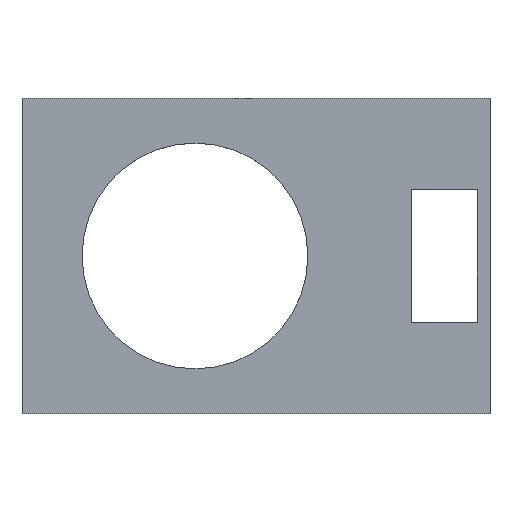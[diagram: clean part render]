
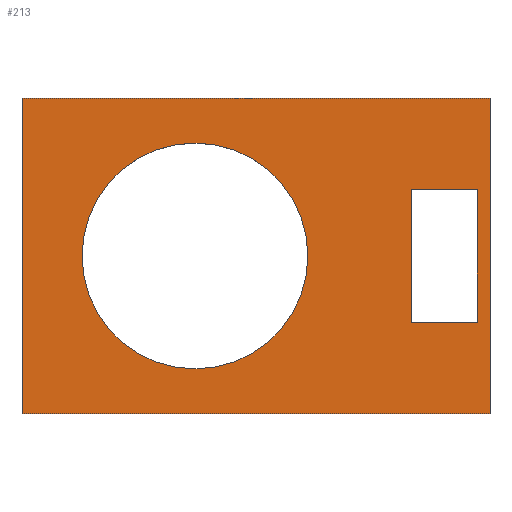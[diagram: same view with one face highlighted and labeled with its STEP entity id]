
A CAD part, top view. The second image highlights one B-rep face of the part: STEP entity #213.
In plain terms, the highlighted planar face has unit normal (0, 0, 1).
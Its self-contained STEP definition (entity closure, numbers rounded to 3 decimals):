
#24 = VERTEX_POINT('',#25);
#25 = CARTESIAN_POINT('',(33.5,85.913,151.));
#32 = PLANE('',#33);
#33 = AXIS2_PLACEMENT_3D('',#34,#35,#36);
#34 = CARTESIAN_POINT('',(33.5,85.913,143.));
#35 = DIRECTION('',(1.,0.,-0.));
#36 = DIRECTION('',(0.,0.,1.));
#44 = PLANE('',#45);
#45 = AXIS2_PLACEMENT_3D('',#46,#47,#48);
#46 = CARTESIAN_POINT('',(33.5,85.913,143.));
#47 = DIRECTION('',(-0.,1.,0.));
#48 = DIRECTION('',(0.,0.,1.));
#85 = VERTEX_POINT('',#86);
#86 = CARTESIAN_POINT('',(33.5,147.913,151.));
#100 = PLANE('',#101);
#101 = AXIS2_PLACEMENT_3D('',#102,#103,#104);
#102 = CARTESIAN_POINT('',(33.5,147.913,143.));
#103 = DIRECTION('',(-0.,1.,0.));
#104 = DIRECTION('',(0.,0.,1.));
#112 = EDGE_CURVE('',#24,#85,#113,.T.);
#113 = SURFACE_CURVE('',#114,(#118,#125),.PCURVE_S1.);
#114 = LINE('',#115,#116);
#115 = CARTESIAN_POINT('',(33.5,85.913,151.));
#116 = VECTOR('',#117,1.);
#117 = DIRECTION('',(-0.,1.,0.));
#118 = PCURVE('',#32,#119);
#119 = DEFINITIONAL_REPRESENTATION('',(#120),#124);
#120 = LINE('',#121,#122);
#121 = CARTESIAN_POINT('',(8.,0.));
#122 = VECTOR('',#123,1.);
#123 = DIRECTION('',(0.,-1.));
#124 = ( GEOMETRIC_REPRESENTATION_CONTEXT(2) 
PARAMETRIC_REPRESENTATION_CONTEXT() REPRESENTATION_CONTEXT('2D SPACE',''
  ) );
#125 = PCURVE('',#126,#131);
#126 = PLANE('',#127);
#127 = AXIS2_PLACEMENT_3D('',#128,#129,#130);
#128 = CARTESIAN_POINT('',(33.5,85.913,151.));
#129 = DIRECTION('',(0.,0.,1.));
#130 = DIRECTION('',(1.,0.,-0.));
#131 = DEFINITIONAL_REPRESENTATION('',(#132),#136);
#132 = LINE('',#133,#134);
#133 = CARTESIAN_POINT('',(0.,0.));
#134 = VECTOR('',#135,1.);
#135 = DIRECTION('',(0.,1.));
#136 = ( GEOMETRIC_REPRESENTATION_CONTEXT(2) 
PARAMETRIC_REPRESENTATION_CONTEXT() REPRESENTATION_CONTEXT('2D SPACE',''
  ) );
#165 = EDGE_CURVE('',#24,#166,#168,.T.);
#166 = VERTEX_POINT('',#167);
#167 = CARTESIAN_POINT('',(125.5,85.913,151.));
#168 = SURFACE_CURVE('',#169,(#173,#180),.PCURVE_S1.);
#169 = LINE('',#170,#171);
#170 = CARTESIAN_POINT('',(33.5,85.913,151.));
#171 = VECTOR('',#172,1.);
#172 = DIRECTION('',(1.,0.,-0.));
#173 = PCURVE('',#44,#174);
#174 = DEFINITIONAL_REPRESENTATION('',(#175),#179);
#175 = LINE('',#176,#177);
#176 = CARTESIAN_POINT('',(8.,0.));
#177 = VECTOR('',#178,1.);
#178 = DIRECTION('',(0.,1.));
#179 = ( GEOMETRIC_REPRESENTATION_CONTEXT(2) 
PARAMETRIC_REPRESENTATION_CONTEXT() REPRESENTATION_CONTEXT('2D SPACE',''
  ) );
#180 = PCURVE('',#126,#181);
#181 = DEFINITIONAL_REPRESENTATION('',(#182),#186);
#182 = LINE('',#183,#184);
#183 = CARTESIAN_POINT('',(0.,0.));
#184 = VECTOR('',#185,1.);
#185 = DIRECTION('',(1.,0.));
#186 = ( GEOMETRIC_REPRESENTATION_CONTEXT(2) 
PARAMETRIC_REPRESENTATION_CONTEXT() REPRESENTATION_CONTEXT('2D SPACE',''
  ) );
#202 = PLANE('',#203);
#203 = AXIS2_PLACEMENT_3D('',#204,#205,#206);
#204 = CARTESIAN_POINT('',(125.5,85.913,143.));
#205 = DIRECTION('',(1.,0.,-0.));
#206 = DIRECTION('',(0.,0.,1.));
#213 = ADVANCED_FACE('',(#214,#262,#293),#126,.T.);
#214 = FACE_BOUND('',#215,.T.);
#215 = EDGE_LOOP('',(#216,#217,#218,#241));
#216 = ORIENTED_EDGE('',*,*,#112,.F.);
#217 = ORIENTED_EDGE('',*,*,#165,.T.);
#218 = ORIENTED_EDGE('',*,*,#219,.T.);
#219 = EDGE_CURVE('',#166,#220,#222,.T.);
#220 = VERTEX_POINT('',#221);
#221 = CARTESIAN_POINT('',(125.5,147.913,151.));
#222 = SURFACE_CURVE('',#223,(#227,#234),.PCURVE_S1.);
#223 = LINE('',#224,#225);
#224 = CARTESIAN_POINT('',(125.5,85.913,151.));
#225 = VECTOR('',#226,1.);
#226 = DIRECTION('',(-0.,1.,0.));
#227 = PCURVE('',#126,#228);
#228 = DEFINITIONAL_REPRESENTATION('',(#229),#233);
#229 = LINE('',#230,#231);
#230 = CARTESIAN_POINT('',(92.,0.));
#231 = VECTOR('',#232,1.);
#232 = DIRECTION('',(0.,1.));
#233 = ( GEOMETRIC_REPRESENTATION_CONTEXT(2) 
PARAMETRIC_REPRESENTATION_CONTEXT() REPRESENTATION_CONTEXT('2D SPACE',''
  ) );
#234 = PCURVE('',#202,#235);
#235 = DEFINITIONAL_REPRESENTATION('',(#236),#240);
#236 = LINE('',#237,#238);
#237 = CARTESIAN_POINT('',(8.,0.));
#238 = VECTOR('',#239,1.);
#239 = DIRECTION('',(0.,-1.));
#240 = ( GEOMETRIC_REPRESENTATION_CONTEXT(2) 
PARAMETRIC_REPRESENTATION_CONTEXT() REPRESENTATION_CONTEXT('2D SPACE',''
  ) );
#241 = ORIENTED_EDGE('',*,*,#242,.F.);
#242 = EDGE_CURVE('',#85,#220,#243,.T.);
#243 = SURFACE_CURVE('',#244,(#248,#255),.PCURVE_S1.);
#244 = LINE('',#245,#246);
#245 = CARTESIAN_POINT('',(33.5,147.913,151.));
#246 = VECTOR('',#247,1.);
#247 = DIRECTION('',(1.,0.,-0.));
#248 = PCURVE('',#126,#249);
#249 = DEFINITIONAL_REPRESENTATION('',(#250),#254);
#250 = LINE('',#251,#252);
#251 = CARTESIAN_POINT('',(0.,62.));
#252 = VECTOR('',#253,1.);
#253 = DIRECTION('',(1.,0.));
#254 = ( GEOMETRIC_REPRESENTATION_CONTEXT(2) 
PARAMETRIC_REPRESENTATION_CONTEXT() REPRESENTATION_CONTEXT('2D SPACE',''
  ) );
#255 = PCURVE('',#100,#256);
#256 = DEFINITIONAL_REPRESENTATION('',(#257),#261);
#257 = LINE('',#258,#259);
#258 = CARTESIAN_POINT('',(8.,0.));
#259 = VECTOR('',#260,1.);
#260 = DIRECTION('',(0.,1.));
#261 = ( GEOMETRIC_REPRESENTATION_CONTEXT(2) 
PARAMETRIC_REPRESENTATION_CONTEXT() REPRESENTATION_CONTEXT('2D SPACE',''
  ) );
#262 = FACE_BOUND('',#263,.T.);
#263 = EDGE_LOOP('',(#264));
#264 = ORIENTED_EDGE('',*,*,#265,.F.);
#265 = EDGE_CURVE('',#266,#266,#268,.T.);
#266 = VERTEX_POINT('',#267);
#267 = CARTESIAN_POINT('',(89.7,116.913,151.));
#268 = SURFACE_CURVE('',#269,(#274,#281),.PCURVE_S1.);
#269 = CIRCLE('',#270,22.2);
#270 = AXIS2_PLACEMENT_3D('',#271,#272,#273);
#271 = CARTESIAN_POINT('',(67.5,116.913,151.));
#272 = DIRECTION('',(0.,0.,1.));
#273 = DIRECTION('',(1.,0.,-0.));
#274 = PCURVE('',#126,#275);
#275 = DEFINITIONAL_REPRESENTATION('',(#276),#280);
#276 = CIRCLE('',#277,22.2);
#277 = AXIS2_PLACEMENT_2D('',#278,#279);
#278 = CARTESIAN_POINT('',(34.,31.));
#279 = DIRECTION('',(1.,0.));
#280 = ( GEOMETRIC_REPRESENTATION_CONTEXT(2) 
PARAMETRIC_REPRESENTATION_CONTEXT() REPRESENTATION_CONTEXT('2D SPACE',''
  ) );
#281 = PCURVE('',#282,#287);
#282 = CYLINDRICAL_SURFACE('',#283,22.2);
#283 = AXIS2_PLACEMENT_3D('',#284,#285,#286);
#284 = CARTESIAN_POINT('',(67.5,116.913,142.));
#285 = DIRECTION('',(0.,0.,1.));
#286 = DIRECTION('',(1.,0.,-0.));
#287 = DEFINITIONAL_REPRESENTATION('',(#288),#292);
#288 = LINE('',#289,#290);
#289 = CARTESIAN_POINT('',(0.,9.));
#290 = VECTOR('',#291,1.);
#291 = DIRECTION('',(1.,0.));
#292 = ( GEOMETRIC_REPRESENTATION_CONTEXT(2) 
PARAMETRIC_REPRESENTATION_CONTEXT() REPRESENTATION_CONTEXT('2D SPACE',''
  ) );
#293 = FACE_BOUND('',#294,.T.);
#294 = EDGE_LOOP('',(#295,#325,#353,#381));
#295 = ORIENTED_EDGE('',*,*,#296,.T.);
#296 = EDGE_CURVE('',#297,#299,#301,.T.);
#297 = VERTEX_POINT('',#298);
#298 = CARTESIAN_POINT('',(123.,103.913,151.));
#299 = VERTEX_POINT('',#300);
#300 = CARTESIAN_POINT('',(110.,103.913,151.));
#301 = SURFACE_CURVE('',#302,(#306,#313),.PCURVE_S1.);
#302 = LINE('',#303,#304);
#303 = CARTESIAN_POINT('',(71.75,103.913,151.));
#304 = VECTOR('',#305,1.);
#305 = DIRECTION('',(-1.,-0.,0.));
#306 = PCURVE('',#126,#307);
#307 = DEFINITIONAL_REPRESENTATION('',(#308),#312);
#308 = LINE('',#309,#310);
#309 = CARTESIAN_POINT('',(38.25,18.));
#310 = VECTOR('',#311,1.);
#311 = DIRECTION('',(-1.,0.));
#312 = ( GEOMETRIC_REPRESENTATION_CONTEXT(2) 
PARAMETRIC_REPRESENTATION_CONTEXT() REPRESENTATION_CONTEXT('2D SPACE',''
  ) );
#313 = PCURVE('',#314,#319);
#314 = PLANE('',#315);
#315 = AXIS2_PLACEMENT_3D('',#316,#317,#318);
#316 = CARTESIAN_POINT('',(110.,103.913,142.));
#317 = DIRECTION('',(-0.,1.,0.));
#318 = DIRECTION('',(0.,0.,1.));
#319 = DEFINITIONAL_REPRESENTATION('',(#320),#324);
#320 = LINE('',#321,#322);
#321 = CARTESIAN_POINT('',(9.,-38.25));
#322 = VECTOR('',#323,1.);
#323 = DIRECTION('',(0.,-1.));
#324 = ( GEOMETRIC_REPRESENTATION_CONTEXT(2) 
PARAMETRIC_REPRESENTATION_CONTEXT() REPRESENTATION_CONTEXT('2D SPACE',''
  ) );
#325 = ORIENTED_EDGE('',*,*,#326,.T.);
#326 = EDGE_CURVE('',#299,#327,#329,.T.);
#327 = VERTEX_POINT('',#328);
#328 = CARTESIAN_POINT('',(110.,129.913,151.));
#329 = SURFACE_CURVE('',#330,(#334,#341),.PCURVE_S1.);
#330 = LINE('',#331,#332);
#331 = CARTESIAN_POINT('',(110.,94.913,151.));
#332 = VECTOR('',#333,1.);
#333 = DIRECTION('',(-0.,1.,0.));
#334 = PCURVE('',#126,#335);
#335 = DEFINITIONAL_REPRESENTATION('',(#336),#340);
#336 = LINE('',#337,#338);
#337 = CARTESIAN_POINT('',(76.5,9.));
#338 = VECTOR('',#339,1.);
#339 = DIRECTION('',(0.,1.));
#340 = ( GEOMETRIC_REPRESENTATION_CONTEXT(2) 
PARAMETRIC_REPRESENTATION_CONTEXT() REPRESENTATION_CONTEXT('2D SPACE',''
  ) );
#341 = PCURVE('',#342,#347);
#342 = PLANE('',#343);
#343 = AXIS2_PLACEMENT_3D('',#344,#345,#346);
#344 = CARTESIAN_POINT('',(110.,103.913,142.));
#345 = DIRECTION('',(1.,0.,-0.));
#346 = DIRECTION('',(0.,0.,1.));
#347 = DEFINITIONAL_REPRESENTATION('',(#348),#352);
#348 = LINE('',#349,#350);
#349 = CARTESIAN_POINT('',(9.,9.));
#350 = VECTOR('',#351,1.);
#351 = DIRECTION('',(0.,-1.));
#352 = ( GEOMETRIC_REPRESENTATION_CONTEXT(2) 
PARAMETRIC_REPRESENTATION_CONTEXT() REPRESENTATION_CONTEXT('2D SPACE',''
  ) );
#353 = ORIENTED_EDGE('',*,*,#354,.F.);
#354 = EDGE_CURVE('',#355,#327,#357,.T.);
#355 = VERTEX_POINT('',#356);
#356 = CARTESIAN_POINT('',(123.,129.913,151.));
#357 = SURFACE_CURVE('',#358,(#362,#369),.PCURVE_S1.);
#358 = LINE('',#359,#360);
#359 = CARTESIAN_POINT('',(71.75,129.913,151.));
#360 = VECTOR('',#361,1.);
#361 = DIRECTION('',(-1.,-0.,0.));
#362 = PCURVE('',#126,#363);
#363 = DEFINITIONAL_REPRESENTATION('',(#364),#368);
#364 = LINE('',#365,#366);
#365 = CARTESIAN_POINT('',(38.25,44.));
#366 = VECTOR('',#367,1.);
#367 = DIRECTION('',(-1.,0.));
#368 = ( GEOMETRIC_REPRESENTATION_CONTEXT(2) 
PARAMETRIC_REPRESENTATION_CONTEXT() REPRESENTATION_CONTEXT('2D SPACE',''
  ) );
#369 = PCURVE('',#370,#375);
#370 = PLANE('',#371);
#371 = AXIS2_PLACEMENT_3D('',#372,#373,#374);
#372 = CARTESIAN_POINT('',(110.,129.913,142.));
#373 = DIRECTION('',(-0.,1.,0.));
#374 = DIRECTION('',(0.,0.,1.));
#375 = DEFINITIONAL_REPRESENTATION('',(#376),#380);
#376 = LINE('',#377,#378);
#377 = CARTESIAN_POINT('',(9.,-38.25));
#378 = VECTOR('',#379,1.);
#379 = DIRECTION('',(0.,-1.));
#380 = ( GEOMETRIC_REPRESENTATION_CONTEXT(2) 
PARAMETRIC_REPRESENTATION_CONTEXT() REPRESENTATION_CONTEXT('2D SPACE',''
  ) );
#381 = ORIENTED_EDGE('',*,*,#382,.F.);
#382 = EDGE_CURVE('',#297,#355,#383,.T.);
#383 = SURFACE_CURVE('',#384,(#388,#395),.PCURVE_S1.);
#384 = LINE('',#385,#386);
#385 = CARTESIAN_POINT('',(123.,94.913,151.));
#386 = VECTOR('',#387,1.);
#387 = DIRECTION('',(-0.,1.,0.));
#388 = PCURVE('',#126,#389);
#389 = DEFINITIONAL_REPRESENTATION('',(#390),#394);
#390 = LINE('',#391,#392);
#391 = CARTESIAN_POINT('',(89.5,9.));
#392 = VECTOR('',#393,1.);
#393 = DIRECTION('',(0.,1.));
#394 = ( GEOMETRIC_REPRESENTATION_CONTEXT(2) 
PARAMETRIC_REPRESENTATION_CONTEXT() REPRESENTATION_CONTEXT('2D SPACE',''
  ) );
#395 = PCURVE('',#396,#401);
#396 = PLANE('',#397);
#397 = AXIS2_PLACEMENT_3D('',#398,#399,#400);
#398 = CARTESIAN_POINT('',(123.,103.913,142.));
#399 = DIRECTION('',(1.,0.,-0.));
#400 = DIRECTION('',(0.,0.,1.));
#401 = DEFINITIONAL_REPRESENTATION('',(#402),#406);
#402 = LINE('',#403,#404);
#403 = CARTESIAN_POINT('',(9.,9.));
#404 = VECTOR('',#405,1.);
#405 = DIRECTION('',(0.,-1.));
#406 = ( GEOMETRIC_REPRESENTATION_CONTEXT(2) 
PARAMETRIC_REPRESENTATION_CONTEXT() REPRESENTATION_CONTEXT('2D SPACE',''
  ) );
